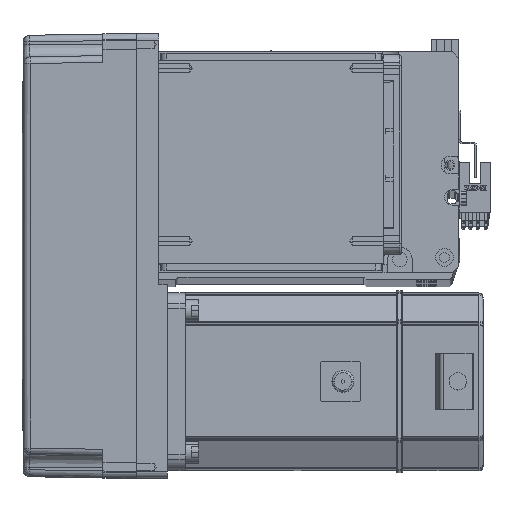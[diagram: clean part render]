
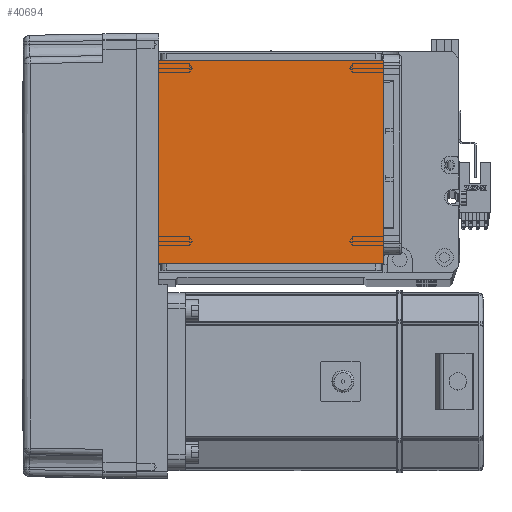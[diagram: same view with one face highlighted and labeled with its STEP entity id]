
A CAD part, top view. The second image highlights one B-rep face of the part: STEP entity #40694.
In plain terms, the highlighted planar face has unit normal (0, 0, 1).
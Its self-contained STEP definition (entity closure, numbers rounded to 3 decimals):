
#355 = VERTEX_POINT ( 'NONE', #24612 ) ;
#437 = VECTOR ( 'NONE', #54911, 1000. ) ;
#2130 = CARTESIAN_POINT ( 'NONE',  ( 50.5, 20., 115. ) ) ;
#2283 = VERTEX_POINT ( 'NONE', #2130 ) ;
#4594 = EDGE_LOOP ( 'NONE', ( #7410, #33226, #16564, #42880 ) ) ;
#4872 = CARTESIAN_POINT ( 'NONE',  ( -70.004, 111.5, 115. ) ) ;
#5117 = AXIS2_PLACEMENT_3D ( 'NONE', #48241, #24712, #15417 ) ;
#5211 = LINE ( 'NONE', #4872, #26634 ) ;
#7410 = ORIENTED_EDGE ( 'NONE', *, *, #58172, .F. ) ;
#10512 = PLANE ( 'NONE',  #5117 ) ;
#13871 = DIRECTION ( 'NONE',  ( 0., 1., 0. ) ) ;
#15417 = DIRECTION ( 'NONE',  ( 1., 0., 0. ) ) ;
#16564 = ORIENTED_EDGE ( 'NONE', *, *, #37313, .F. ) ;
#20296 = CARTESIAN_POINT ( 'NONE',  ( 50.5, 111.5, 115. ) ) ;
#21028 = CARTESIAN_POINT ( 'NONE',  ( -70.004, 20., 115. ) ) ;
#24612 = CARTESIAN_POINT ( 'NONE',  ( -50.5, 20., 115. ) ) ;
#24712 = DIRECTION ( 'NONE',  ( 0., 0., 1. ) ) ;
#26634 = VECTOR ( 'NONE', #32929, 1000. ) ;
#28228 = CARTESIAN_POINT ( 'NONE',  ( -50.5, 111.5, 115. ) ) ;
#29202 = LINE ( 'NONE', #59480, #437 ) ;
#32445 = FACE_OUTER_BOUND ( 'NONE', #4594, .T. ) ;
#32929 = DIRECTION ( 'NONE',  ( 1., 0., 0. ) ) ;
#33226 = ORIENTED_EDGE ( 'NONE', *, *, #60808, .T. ) ;
#37313 = EDGE_CURVE ( 'NONE', #2283, #355, #51976, .T. ) ;
#39910 = EDGE_CURVE ( 'NONE', #2283, #48599, #44322, .T. ) ;
#40694 = ADVANCED_FACE ( 'NONE', ( #32445 ), #10512, .T. ) ;
#42126 = CARTESIAN_POINT ( 'NONE',  ( 50.5, 122., 115. ) ) ;
#42880 = ORIENTED_EDGE ( 'NONE', *, *, #39910, .T. ) ;
#44282 = VERTEX_POINT ( 'NONE', #28228 ) ;
#44322 = LINE ( 'NONE', #42126, #52467 ) ;
#48241 = CARTESIAN_POINT ( 'NONE',  ( 0., 0., 115. ) ) ;
#48599 = VERTEX_POINT ( 'NONE', #20296 ) ;
#51976 = LINE ( 'NONE', #21028, #56411 ) ;
#52467 = VECTOR ( 'NONE', #13871, 1000. ) ;
#54006 = DIRECTION ( 'NONE',  ( -1., 0., 0. ) ) ;
#54911 = DIRECTION ( 'NONE',  ( 0., -1., 0. ) ) ;
#56411 = VECTOR ( 'NONE', #54006, 1000. ) ;
#58172 = EDGE_CURVE ( 'NONE', #44282, #48599, #5211, .T. ) ;
#59480 = CARTESIAN_POINT ( 'NONE',  ( -50.5, 122., 115. ) ) ;
#60808 = EDGE_CURVE ( 'NONE', #44282, #355, #29202, .T. ) ;
